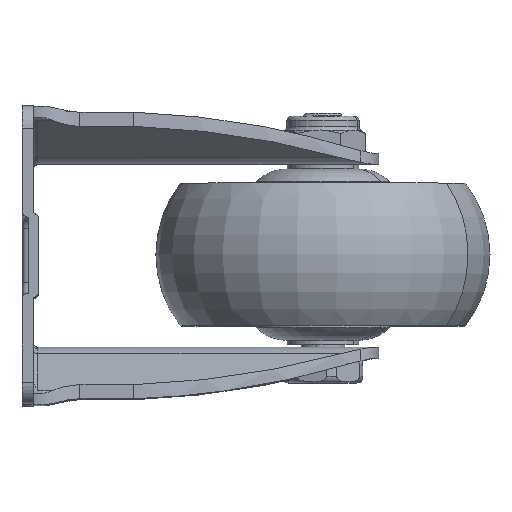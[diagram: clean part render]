
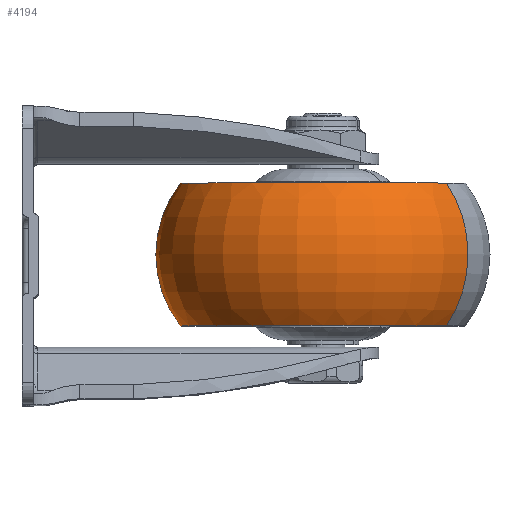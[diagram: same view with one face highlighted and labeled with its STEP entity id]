
A CAD part, left-side view. The second image highlights one B-rep face of the part: STEP entity #4194.
In plain terms, the highlighted toroidal (fillet/blend) face has major radius 11.477 mm and minor radius 26.023 mm.
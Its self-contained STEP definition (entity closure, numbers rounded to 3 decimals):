
#4194 = ADVANCED_FACE ( 'NONE', ( #13047 ), #13034, .T. ) ;
#4195 = EDGE_LOOP ( 'NONE', ( #4196, #4729, #4730, #4732 ) ) ;
#4196 = ORIENTED_EDGE ( 'NONE', *, *, #4389, .F. ) ;
#4359 = VERTEX_POINT ( 'NONE', #13467 ) ;
#4387 = VERTEX_POINT ( 'NONE', #13509 ) ;
#4389 = EDGE_CURVE ( 'NONE', #4387, #4390, #13502, .T. ) ;
#4390 = VERTEX_POINT ( 'NONE', #13495 ) ;
#4394 = VERTEX_POINT ( 'NONE', #13753 ) ;
#4397 = EDGE_CURVE ( 'NONE', #4359, #4394, #13746, .T. ) ;
#4729 = ORIENTED_EDGE ( 'NONE', *, *, #4880, .T. ) ;
#4730 = ORIENTED_EDGE ( 'NONE', *, *, #4397, .T. ) ;
#4732 = ORIENTED_EDGE ( 'NONE', *, *, #4734, .F. ) ;
#4734 = EDGE_CURVE ( 'NONE', #4390, #4394, #14096, .T. ) ;
#4880 = EDGE_CURVE ( 'NONE', #4387, #4359, #14532, .T. ) ;
#12999 = DIRECTION ( 'NONE',  ( 0., 0., -1. ) ) ;
#13000 = AXIS2_PLACEMENT_3D ( 'NONE', #13033, #13036, #12999 ) ;
#13033 = CARTESIAN_POINT ( 'NONE',  ( 0., 0., 0. ) ) ;
#13034 = TOROIDAL_SURFACE ( 'NONE', #13000, 11.477, 26.023 ) ;
#13036 = DIRECTION ( 'NONE',  ( 0., -1., 0. ) ) ;
#13047 = FACE_OUTER_BOUND ( 'NONE', #4195, .T. ) ;
#13467 = CARTESIAN_POINT ( 'NONE',  ( 0., 16., -32. ) ) ;
#13495 = CARTESIAN_POINT ( 'NONE',  ( 0., -16., 32. ) ) ;
#13497 = DIRECTION ( 'NONE',  ( 0., 0., -1. ) ) ;
#13499 = DIRECTION ( 'NONE',  ( 1., 0., 0. ) ) ;
#13500 = CARTESIAN_POINT ( 'NONE',  ( 0., 0., 11.477 ) ) ;
#13501 = AXIS2_PLACEMENT_3D ( 'NONE', #13500, #13499, #13497 ) ;
#13502 = CIRCLE ( 'NONE', #13501, 26.023 ) ;
#13509 = CARTESIAN_POINT ( 'NONE',  ( 0., 16., 32. ) ) ;
#13740 = DIRECTION ( 'NONE',  ( 0., 0., 1. ) ) ;
#13741 = DIRECTION ( 'NONE',  ( -1., 0., 0. ) ) ;
#13743 = CARTESIAN_POINT ( 'NONE',  ( 0., 0., -11.477 ) ) ;
#13745 = AXIS2_PLACEMENT_3D ( 'NONE', #13743, #13741, #13740 ) ;
#13746 = CIRCLE ( 'NONE', #13745, 26.023 ) ;
#13753 = CARTESIAN_POINT ( 'NONE',  ( 0., -16., -32. ) ) ;
#14086 = DIRECTION ( 'NONE',  ( 0., 0., -1. ) ) ;
#14087 = DIRECTION ( 'NONE',  ( 0., -1., 0. ) ) ;
#14088 = CARTESIAN_POINT ( 'NONE',  ( 0., -16., 0. ) ) ;
#14090 = AXIS2_PLACEMENT_3D ( 'NONE', #14088, #14087, #14086 ) ;
#14096 = CIRCLE ( 'NONE', #14090, 32. ) ;
#14515 = DIRECTION ( 'NONE',  ( 0., 0., -1. ) ) ;
#14517 = DIRECTION ( 'NONE',  ( 0., -1., 0. ) ) ;
#14520 = CARTESIAN_POINT ( 'NONE',  ( 0., 16., 0. ) ) ;
#14521 = AXIS2_PLACEMENT_3D ( 'NONE', #14520, #14517, #14515 ) ;
#14532 = CIRCLE ( 'NONE', #14521, 32. ) ;
